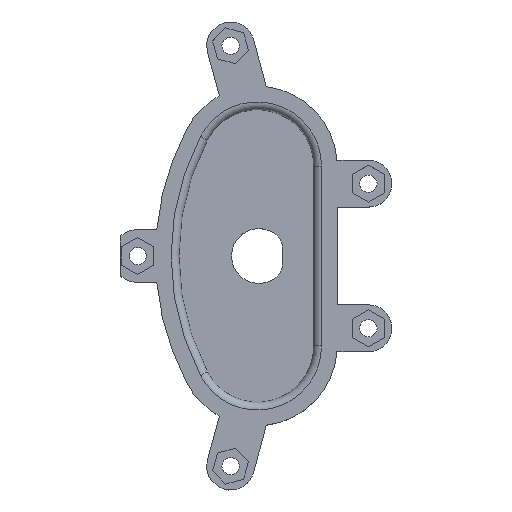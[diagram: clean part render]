
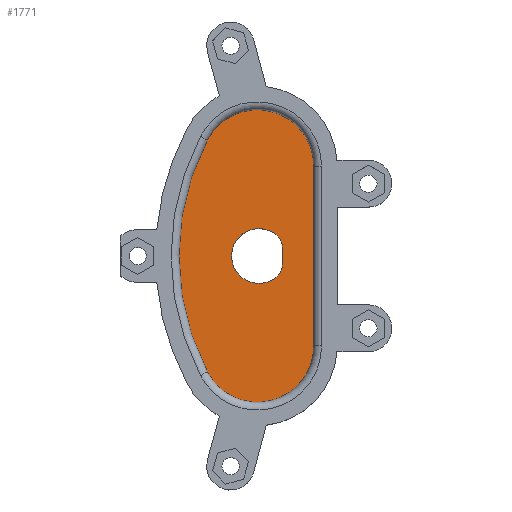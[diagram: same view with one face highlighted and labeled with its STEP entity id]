
A CAD part, top view. The second image highlights one B-rep face of the part: STEP entity #1771.
In plain terms, the highlighted planar face has unit normal (0, 0, 1).
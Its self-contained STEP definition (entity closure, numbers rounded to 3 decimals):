
#27=FACE_BOUND('',#287,.T.);
#87=PLANE('',#1957);
#176=FACE_OUTER_BOUND('',#286,.T.);
#286=EDGE_LOOP('',(#1543,#1544,#1545,#1546));
#287=EDGE_LOOP('',(#1547,#1548,#1549,#1550));
#318=LINE('',#2537,#490);
#471=LINE('',#2978,#643);
#490=VECTOR('',#2006,10.);
#643=VECTOR('',#2441,10.);
#659=CIRCLE('',#1816,2.);
#660=CIRCLE('',#1819,2.);
#690=CIRCLE('',#1857,3.5);
#723=CIRCLE('',#1958,8.2);
#724=CIRCLE('',#1959,8.2);
#725=CIRCLE('',#1960,33.);
#740=VERTEX_POINT('',#2527);
#741=VERTEX_POINT('',#2529);
#743=VERTEX_POINT('',#2535);
#744=VERTEX_POINT('',#2539);
#888=VERTEX_POINT('',#2974);
#889=VERTEX_POINT('',#2975);
#890=VERTEX_POINT('',#2977);
#891=VERTEX_POINT('',#2979);
#904=EDGE_CURVE('',#740,#741,#659,.T.);
#908=EDGE_CURVE('',#743,#740,#318,.T.);
#909=EDGE_CURVE('',#744,#743,#660,.T.);
#987=EDGE_CURVE('',#744,#741,#690,.T.);
#1124=EDGE_CURVE('',#888,#889,#723,.T.);
#1125=EDGE_CURVE('',#889,#890,#471,.T.);
#1126=EDGE_CURVE('',#890,#891,#724,.T.);
#1127=EDGE_CURVE('',#891,#888,#725,.T.);
#1543=ORIENTED_EDGE('',*,*,#1124,.T.);
#1544=ORIENTED_EDGE('',*,*,#1125,.T.);
#1545=ORIENTED_EDGE('',*,*,#1126,.T.);
#1546=ORIENTED_EDGE('',*,*,#1127,.T.);
#1547=ORIENTED_EDGE('',*,*,#987,.T.);
#1548=ORIENTED_EDGE('',*,*,#904,.F.);
#1549=ORIENTED_EDGE('',*,*,#908,.F.);
#1550=ORIENTED_EDGE('',*,*,#909,.F.);
#1771=ADVANCED_FACE('',(#176,#27),#87,.T.);
#1816=AXIS2_PLACEMENT_3D('',#2530,#1999,#2000);
#1819=AXIS2_PLACEMENT_3D('',#2540,#2009,#2010);
#1857=AXIS2_PLACEMENT_3D('',#2696,#2133,#2134);
#1957=AXIS2_PLACEMENT_3D('',#2973,#2437,#2438);
#1958=AXIS2_PLACEMENT_3D('',#2976,#2439,#2440);
#1959=AXIS2_PLACEMENT_3D('',#2980,#2442,#2443);
#1960=AXIS2_PLACEMENT_3D('',#2981,#2444,#2445);
#1999=DIRECTION('center_axis',(0.,0.,
1.));
#2000=DIRECTION('ref_axis',(0.913,0.408,0.));
#2006=DIRECTION('',(0.,1.,0.));
#2009=DIRECTION('center_axis',(0.,0.,
1.));
#2010=DIRECTION('ref_axis',(0.913,-0.408,0.));
#2133=DIRECTION('center_axis',(0.,0.,
-1.));
#2134=DIRECTION('ref_axis',(1.,0.,0.));
#2437=DIRECTION('center_axis',(0.,0.,
1.));
#2438=DIRECTION('ref_axis',(1.,0.,0.));
#2439=DIRECTION('center_axis',(0.,0.,
1.));
#2440=DIRECTION('ref_axis',(0.886,0.464,0.));
#2441=DIRECTION('',(0.,1.,0.));
#2442=DIRECTION('center_axis',(0.,0.,
1.));
#2443=DIRECTION('ref_axis',(-1.,0.,0.));
#2444=DIRECTION('center_axis',(0.,0.,
1.));
#2445=DIRECTION('ref_axis',(0.886,-0.464,0.));
#2527=CARTESIAN_POINT('',(4.614,1.118,3.));
#2529=CARTESIAN_POINT('',(3.947,2.609,3.));
#2530=CARTESIAN_POINT('Origin',(2.614,1.118,3.));
#2535=CARTESIAN_POINT('',(4.614,-1.118,3.));
#2537=CARTESIAN_POINT('',(4.614,0.901,3.));
#2539=CARTESIAN_POINT('',(3.947,-2.609,3.));
#2540=CARTESIAN_POINT('Origin',(2.614,-1.118,3.));
#2696=CARTESIAN_POINT('Origin',(1.614,0.,3.));
#2973=CARTESIAN_POINT('Origin',(0.,0.,
3.));
#2974=CARTESIAN_POINT('',(-5.851,-15.302,3.));
#2975=CARTESIAN_POINT('',(9.614,-11.5,3.));
#2976=CARTESIAN_POINT('Origin',(1.414,-11.5,3.));
#2977=CARTESIAN_POINT('',(9.614,11.5,3.));
#2978=CARTESIAN_POINT('',(9.614,-5.75,3.));
#2979=CARTESIAN_POINT('',(-5.851,15.302,3.));
#2980=CARTESIAN_POINT('Origin',(1.414,11.5,3.));
#2981=CARTESIAN_POINT('Origin',(23.386,0.,3.));
